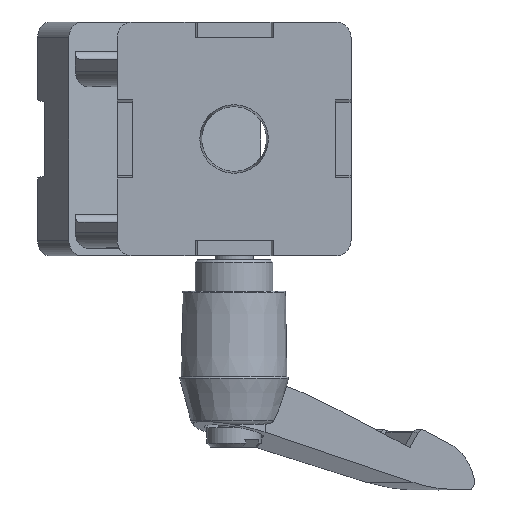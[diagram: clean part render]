
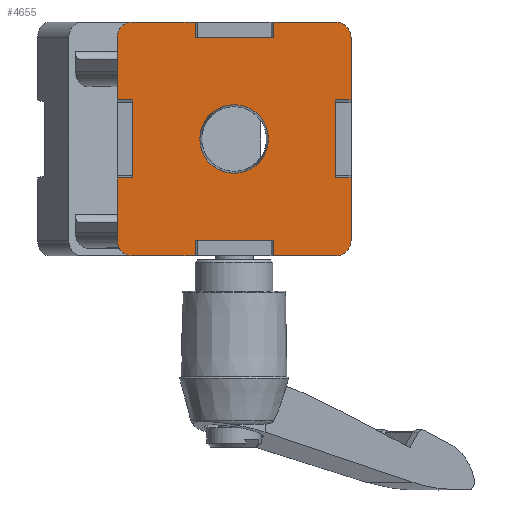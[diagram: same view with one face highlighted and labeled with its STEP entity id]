
A CAD part, front view. The second image highlights one B-rep face of the part: STEP entity #4655.
In plain terms, the highlighted planar face has unit normal (0, -1, 0).
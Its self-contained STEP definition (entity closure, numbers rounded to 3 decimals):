
#379=LINE('',#7012,#690);
#380=LINE('',#7015,#691);
#381=LINE('',#7019,#692);
#382=LINE('',#7021,#693);
#383=LINE('',#7023,#694);
#384=LINE('',#7025,#695);
#385=LINE('',#7027,#696);
#386=LINE('',#7031,#697);
#387=LINE('',#7033,#698);
#388=LINE('',#7035,#699);
#389=LINE('',#7037,#700);
#390=LINE('',#7039,#701);
#391=LINE('',#7043,#702);
#392=LINE('',#7045,#703);
#393=LINE('',#7047,#704);
#394=LINE('',#7049,#705);
#395=LINE('',#7051,#706);
#396=LINE('',#7055,#707);
#397=LINE('',#7057,#708);
#398=LINE('',#7059,#709);
#690=VECTOR('',#5589,1000.);
#691=VECTOR('',#5590,1000.);
#692=VECTOR('',#5593,1000.);
#693=VECTOR('',#5594,1000.);
#694=VECTOR('',#5595,1000.);
#695=VECTOR('',#5596,1000.);
#696=VECTOR('',#5597,1000.);
#697=VECTOR('',#5600,1000.);
#698=VECTOR('',#5601,1000.);
#699=VECTOR('',#5602,1000.);
#700=VECTOR('',#5603,1000.);
#701=VECTOR('',#5604,1000.);
#702=VECTOR('',#5607,1000.);
#703=VECTOR('',#5608,1000.);
#704=VECTOR('',#5609,1000.);
#705=VECTOR('',#5610,1000.);
#706=VECTOR('',#5611,1000.);
#707=VECTOR('',#5614,1000.);
#708=VECTOR('',#5615,1000.);
#709=VECTOR('',#5616,1000.);
#1001=ORIENTED_EDGE('',*,*,#2357,.F.);
#1002=ORIENTED_EDGE('',*,*,#2358,.F.);
#1003=ORIENTED_EDGE('',*,*,#2359,.F.);
#1004=ORIENTED_EDGE('',*,*,#2360,.F.);
#1005=ORIENTED_EDGE('',*,*,#2361,.F.);
#1006=ORIENTED_EDGE('',*,*,#2362,.F.);
#1007=ORIENTED_EDGE('',*,*,#2363,.F.);
#1008=ORIENTED_EDGE('',*,*,#2364,.F.);
#1009=ORIENTED_EDGE('',*,*,#2365,.F.);
#1010=ORIENTED_EDGE('',*,*,#2366,.F.);
#1011=ORIENTED_EDGE('',*,*,#2367,.F.);
#1012=ORIENTED_EDGE('',*,*,#2368,.F.);
#1013=ORIENTED_EDGE('',*,*,#2369,.T.);
#1014=ORIENTED_EDGE('',*,*,#2370,.T.);
#1015=ORIENTED_EDGE('',*,*,#2371,.F.);
#1016=ORIENTED_EDGE('',*,*,#2372,.F.);
#1017=ORIENTED_EDGE('',*,*,#2373,.F.);
#1018=ORIENTED_EDGE('',*,*,#2374,.F.);
#1019=ORIENTED_EDGE('',*,*,#2375,.T.);
#1020=ORIENTED_EDGE('',*,*,#2376,.T.);
#1021=ORIENTED_EDGE('',*,*,#2377,.F.);
#1022=ORIENTED_EDGE('',*,*,#2378,.F.);
#1023=ORIENTED_EDGE('',*,*,#2379,.F.);
#1024=ORIENTED_EDGE('',*,*,#2380,.T.);
#1025=ORIENTED_EDGE('',*,*,#2381,.F.);
#2357=EDGE_CURVE('',#3035,#3035,#3506,.T.);
#2358=EDGE_CURVE('',#3036,#3037,#379,.T.);
#2359=EDGE_CURVE('',#3038,#3036,#380,.T.);
#2360=EDGE_CURVE('',#3039,#3038,#3507,.T.);
#2361=EDGE_CURVE('',#3040,#3039,#381,.T.);
#2362=EDGE_CURVE('',#3041,#3040,#382,.T.);
#2363=EDGE_CURVE('',#3042,#3041,#383,.T.);
#2364=EDGE_CURVE('',#3043,#3042,#384,.T.);
#2365=EDGE_CURVE('',#3044,#3043,#385,.T.);
#2366=EDGE_CURVE('',#3045,#3044,#3508,.T.);
#2367=EDGE_CURVE('',#3046,#3045,#386,.T.);
#2368=EDGE_CURVE('',#3047,#3046,#387,.T.);
#2369=EDGE_CURVE('',#3047,#3048,#388,.T.);
#2370=EDGE_CURVE('',#3048,#3049,#389,.T.);
#2371=EDGE_CURVE('',#3050,#3049,#390,.T.);
#2372=EDGE_CURVE('',#3051,#3050,#3509,.T.);
#2373=EDGE_CURVE('',#3052,#3051,#391,.T.);
#2374=EDGE_CURVE('',#3053,#3052,#392,.T.);
#2375=EDGE_CURVE('',#3053,#3054,#393,.T.);
#2376=EDGE_CURVE('',#3054,#3055,#394,.T.);
#2377=EDGE_CURVE('',#3056,#3055,#395,.T.);
#2378=EDGE_CURVE('',#3057,#3056,#3510,.T.);
#2379=EDGE_CURVE('',#3058,#3057,#396,.T.);
#2380=EDGE_CURVE('',#3058,#3059,#397,.T.);
#2381=EDGE_CURVE('',#3037,#3059,#398,.T.);
#3035=VERTEX_POINT('',#7011);
#3036=VERTEX_POINT('',#7013);
#3037=VERTEX_POINT('',#7014);
#3038=VERTEX_POINT('',#7016);
#3039=VERTEX_POINT('',#7018);
#3040=VERTEX_POINT('',#7020);
#3041=VERTEX_POINT('',#7022);
#3042=VERTEX_POINT('',#7024);
#3043=VERTEX_POINT('',#7026);
#3044=VERTEX_POINT('',#7028);
#3045=VERTEX_POINT('',#7030);
#3046=VERTEX_POINT('',#7032);
#3047=VERTEX_POINT('',#7034);
#3048=VERTEX_POINT('',#7036);
#3049=VERTEX_POINT('',#7038);
#3050=VERTEX_POINT('',#7040);
#3051=VERTEX_POINT('',#7042);
#3052=VERTEX_POINT('',#7044);
#3053=VERTEX_POINT('',#7046);
#3054=VERTEX_POINT('',#7048);
#3055=VERTEX_POINT('',#7050);
#3056=VERTEX_POINT('',#7052);
#3057=VERTEX_POINT('',#7054);
#3058=VERTEX_POINT('',#7056);
#3059=VERTEX_POINT('',#7058);
#3506=CIRCLE('',#5028,4.394);
#3507=CIRCLE('',#5029,2.);
#3508=CIRCLE('',#5030,2.);
#3509=CIRCLE('',#5031,2.);
#3510=CIRCLE('',#5032,2.);
#3721=EDGE_LOOP('',(#1001));
#3722=EDGE_LOOP('',(#1002,#1003,#1004,#1005,#1006,#1007,#1008,#1009,#1010,
#1011,#1012,#1013,#1014,#1015,#1016,#1017,#1018,#1019,#1020,#1021,#1022,
#1023,#1024,#1025));
#4120=FACE_BOUND('',#3721,.T.);
#4121=FACE_BOUND('',#3722,.T.);
#4519=PLANE('',#5027);
#4655=ADVANCED_FACE('',(#4120,#4121),#4519,.F.);
#5027=AXIS2_PLACEMENT_3D('',#7009,#5585,#5586);
#5028=AXIS2_PLACEMENT_3D('',#7010,#5587,#5588);
#5029=AXIS2_PLACEMENT_3D('',#7017,#5591,#5592);
#5030=AXIS2_PLACEMENT_3D('',#7029,#5598,#5599);
#5031=AXIS2_PLACEMENT_3D('',#7041,#5605,#5606);
#5032=AXIS2_PLACEMENT_3D('',#7053,#5612,#5613);
#5585=DIRECTION('',(0.,1.,0.));
#5586=DIRECTION('',(0.,0.,1.));
#5587=DIRECTION('',(0.,-1.,0.));
#5588=DIRECTION('',(0.,0.,-1.));
#5589=DIRECTION('',(-1.,0.,0.));
#5590=DIRECTION('',(0.,0.,-1.));
#5591=DIRECTION('',(0.,1.,0.));
#5592=DIRECTION('',(1.,0.,0.));
#5593=DIRECTION('',(1.,0.,0.));
#5594=DIRECTION('',(0.,0.,1.));
#5595=DIRECTION('',(1.,0.,0.));
#5596=DIRECTION('',(0.,0.,-1.));
#5597=DIRECTION('',(1.,0.,0.));
#5598=DIRECTION('',(0.,1.,0.));
#5599=DIRECTION('',(1.,0.,0.));
#5600=DIRECTION('',(0.,0.,1.));
#5601=DIRECTION('',(-1.,0.,0.));
#5602=DIRECTION('',(0.,0.,-1.));
#5603=DIRECTION('',(-1.,0.,0.));
#5604=DIRECTION('',(0.,0.,1.));
#5605=DIRECTION('',(0.,1.,0.));
#5606=DIRECTION('',(1.,0.,0.));
#5607=DIRECTION('',(-1.,0.,0.));
#5608=DIRECTION('',(0.,0.,-1.));
#5609=DIRECTION('',(1.,0.,0.));
#5610=DIRECTION('',(0.,0.,-1.));
#5611=DIRECTION('',(-1.,0.,0.));
#5612=DIRECTION('',(0.,1.,0.));
#5613=DIRECTION('',(1.,0.,0.));
#5614=DIRECTION('',(0.,0.,-1.));
#5615=DIRECTION('',(-1.,0.,0.));
#5616=DIRECTION('',(0.,0.,-1.));
#7009=CARTESIAN_POINT('',(-13.,-22.5,-13.));
#7010=CARTESIAN_POINT('',(0.,-22.5,0.));
#7011=CARTESIAN_POINT('',(0.,-22.5,-4.394));
#7012=CARTESIAN_POINT('',(17.,-22.5,5.));
#7013=CARTESIAN_POINT('',(15.,-22.5,5.));
#7014=CARTESIAN_POINT('',(13.,-22.5,5.));
#7015=CARTESIAN_POINT('',(15.,-22.5,13.));
#7016=CARTESIAN_POINT('',(15.,-22.5,13.));
#7017=CARTESIAN_POINT('',(13.,-22.5,13.));
#7018=CARTESIAN_POINT('',(13.,-22.5,15.));
#7019=CARTESIAN_POINT('',(-13.,-22.5,15.));
#7020=CARTESIAN_POINT('',(5.,-22.5,15.));
#7021=CARTESIAN_POINT('',(5.,-22.5,-13.));
#7022=CARTESIAN_POINT('',(5.,-22.5,13.));
#7023=CARTESIAN_POINT('',(-5.,-22.5,13.));
#7024=CARTESIAN_POINT('',(-5.,-22.5,13.));
#7025=CARTESIAN_POINT('',(-5.,-22.5,-13.));
#7026=CARTESIAN_POINT('',(-5.,-22.5,15.));
#7027=CARTESIAN_POINT('',(-13.,-22.5,15.));
#7028=CARTESIAN_POINT('',(-13.,-22.5,15.));
#7029=CARTESIAN_POINT('',(-13.,-22.5,13.));
#7030=CARTESIAN_POINT('',(-15.,-22.5,13.));
#7031=CARTESIAN_POINT('',(-15.,-22.5,-13.));
#7032=CARTESIAN_POINT('',(-15.,-22.5,5.));
#7033=CARTESIAN_POINT('',(-13.,-22.5,5.));
#7034=CARTESIAN_POINT('',(-13.,-22.5,5.));
#7035=CARTESIAN_POINT('',(-13.,-22.5,5.));
#7036=CARTESIAN_POINT('',(-13.,-22.5,-5.));
#7037=CARTESIAN_POINT('',(-13.,-22.5,-5.));
#7038=CARTESIAN_POINT('',(-15.,-22.5,-5.));
#7039=CARTESIAN_POINT('',(-15.,-22.5,-13.));
#7040=CARTESIAN_POINT('',(-15.,-22.5,-13.));
#7041=CARTESIAN_POINT('',(-13.,-22.5,-13.));
#7042=CARTESIAN_POINT('',(-13.,-22.5,-15.));
#7043=CARTESIAN_POINT('',(13.,-22.5,-15.));
#7044=CARTESIAN_POINT('',(-5.,-22.5,-15.));
#7045=CARTESIAN_POINT('',(-5.,-22.5,-13.));
#7046=CARTESIAN_POINT('',(-5.,-22.5,-13.));
#7047=CARTESIAN_POINT('',(-5.,-22.5,-13.));
#7048=CARTESIAN_POINT('',(5.,-22.5,-13.));
#7049=CARTESIAN_POINT('',(5.,-22.5,-13.));
#7050=CARTESIAN_POINT('',(5.,-22.5,-15.));
#7051=CARTESIAN_POINT('',(13.,-22.5,-15.));
#7052=CARTESIAN_POINT('',(13.,-22.5,-15.));
#7053=CARTESIAN_POINT('',(13.,-22.5,-13.));
#7054=CARTESIAN_POINT('',(15.,-22.5,-13.));
#7055=CARTESIAN_POINT('',(15.,-22.5,13.));
#7056=CARTESIAN_POINT('',(15.,-22.5,-5.));
#7057=CARTESIAN_POINT('',(17.,-22.5,-5.));
#7058=CARTESIAN_POINT('',(13.,-22.5,-5.));
#7059=CARTESIAN_POINT('',(13.,-22.5,5.));
